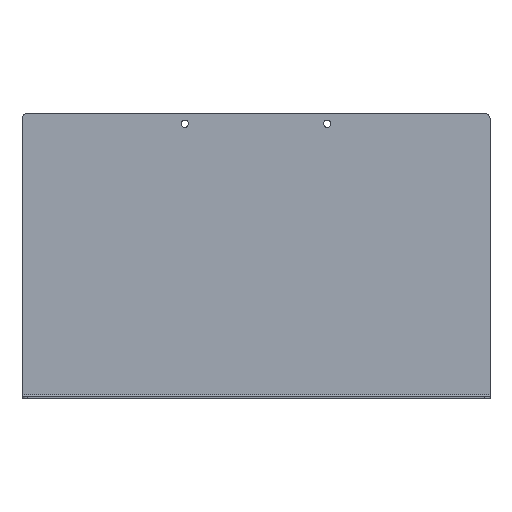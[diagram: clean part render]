
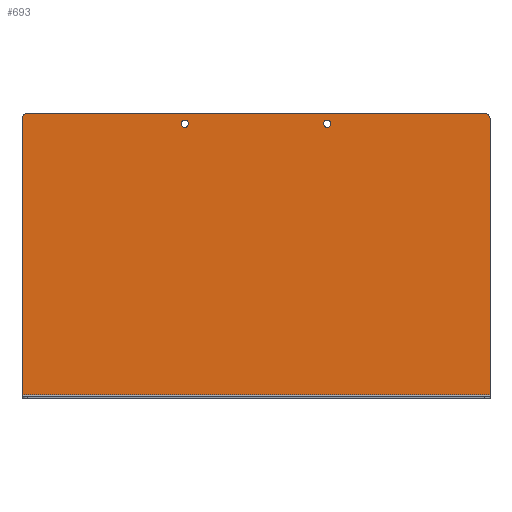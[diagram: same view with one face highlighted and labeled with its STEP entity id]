
A CAD part, top view. The second image highlights one B-rep face of the part: STEP entity #693.
In plain terms, the highlighted planar face has unit normal (0, 0, 1).
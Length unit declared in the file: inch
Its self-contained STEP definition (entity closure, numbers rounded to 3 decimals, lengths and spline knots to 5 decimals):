
#107=CARTESIAN_POINT('',(5.625,3.5,0.055));
#108=VERTEX_POINT('',#107);
#109=CARTESIAN_POINT('',(5.75,3.375,0.055));
#110=VERTEX_POINT('',#109);
#111=CARTESIAN_POINT('',(5.625,3.375,0.055));
#112=DIRECTION('',(0.0,0.0,-1.0));
#113=DIRECTION('',(0.707,0.707,0.0));
#114=AXIS2_PLACEMENT_3D('',#111,#112,#113);
#115=CIRCLE('',#114,0.125);
#116=EDGE_CURVE('',#108,#110,#115,.T.);
#158=CARTESIAN_POINT('',(-5.625,3.5,0.055));
#159=VERTEX_POINT('',#158);
#166=CARTESIAN_POINT('',(-5.625,3.5,0.055));
#167=DIRECTION('',(1.0,0.0,0.0));
#168=VECTOR('',#167,11.25);
#169=LINE('',#166,#168);
#170=EDGE_CURVE('',#159,#108,#169,.T.);
#243=CARTESIAN_POINT('',(-5.75,3.375,0.055));
#244=VERTEX_POINT('',#243);
#245=CARTESIAN_POINT('',(-5.625,3.375,0.055));
#246=DIRECTION('',(0.0,0.0,-1.0));
#247=DIRECTION('',(-0.707,0.707,0.0));
#248=AXIS2_PLACEMENT_3D('',#245,#246,#247);
#249=CIRCLE('',#248,0.125);
#250=EDGE_CURVE('',#244,#159,#249,.T.);
#270=CARTESIAN_POINT('',(-5.75,-3.414,0.055));
#271=VERTEX_POINT('',#270);
#278=CARTESIAN_POINT('',(-5.75,-3.414,0.055));
#279=DIRECTION('',(0.0,1.0,0.0));
#280=VECTOR('',#279,6.789);
#281=LINE('',#278,#280);
#282=EDGE_CURVE('',#271,#244,#281,.T.);
#496=CARTESIAN_POINT('',(-1.8385,3.25,0.055));
#497=VERTEX_POINT('',#496);
#498=CARTESIAN_POINT('',(-1.75,3.25,0.055));
#499=DIRECTION('',(0.0,0.0,-1.0));
#500=DIRECTION('',(1.0,0.0,0.0));
#501=AXIS2_PLACEMENT_3D('',#498,#499,#500);
#502=CIRCLE('',#501,0.0885);
#503=EDGE_CURVE('',#497,#497,#502,.T.);
#516=CARTESIAN_POINT('',(1.6615,3.25,0.055));
#517=VERTEX_POINT('',#516);
#518=CARTESIAN_POINT('',(1.75,3.25,0.055));
#519=DIRECTION('',(0.0,0.0,-1.0));
#520=DIRECTION('',(1.0,0.0,0.0));
#521=AXIS2_PLACEMENT_3D('',#518,#519,#520);
#522=CIRCLE('',#521,0.0885);
#523=EDGE_CURVE('',#517,#517,#522,.T.);
#585=CARTESIAN_POINT('',(5.75,-3.414,0.055));
#586=VERTEX_POINT('',#585);
#647=CARTESIAN_POINT('',(-5.75,-3.414,0.055));
#648=DIRECTION('',(1.0,0.0,0.0));
#649=VECTOR('',#648,11.5);
#650=LINE('',#647,#649);
#651=EDGE_CURVE('',#271,#586,#650,.T.);
#663=CARTESIAN_POINT('',(5.75,3.375,0.055));
#664=DIRECTION('',(0.0,-1.0,0.0));
#665=VECTOR('',#664,6.789);
#666=LINE('',#663,#665);
#667=EDGE_CURVE('',#110,#586,#666,.T.);
#674=CARTESIAN_POINT('',(0.0,0.,0.055));
#675=DIRECTION('',(0.0,0.0,1.0));
#676=DIRECTION('',(1.0,0.0,0.0));
#677=AXIS2_PLACEMENT_3D('',#674,#675,#676);
#678=PLANE('',#677);
#679=ORIENTED_EDGE('',*,*,#116,.F.);
#680=ORIENTED_EDGE('',*,*,#170,.F.);
#681=ORIENTED_EDGE('',*,*,#250,.F.);
#682=ORIENTED_EDGE('',*,*,#282,.F.);
#683=ORIENTED_EDGE('',*,*,#651,.T.);
#684=ORIENTED_EDGE('',*,*,#667,.F.);
#685=EDGE_LOOP('',(#679,#680,#681,#682,#683,#684));
#686=FACE_OUTER_BOUND('',#685,.T.);
#687=ORIENTED_EDGE('',*,*,#503,.T.);
#688=EDGE_LOOP('',(#687));
#689=FACE_BOUND('',#688,.T.);
#690=ORIENTED_EDGE('',*,*,#523,.T.);
#691=EDGE_LOOP('',(#690));
#692=FACE_BOUND('',#691,.T.);
#693=ADVANCED_FACE('',(#686,#689,#692),#678,.T.);
